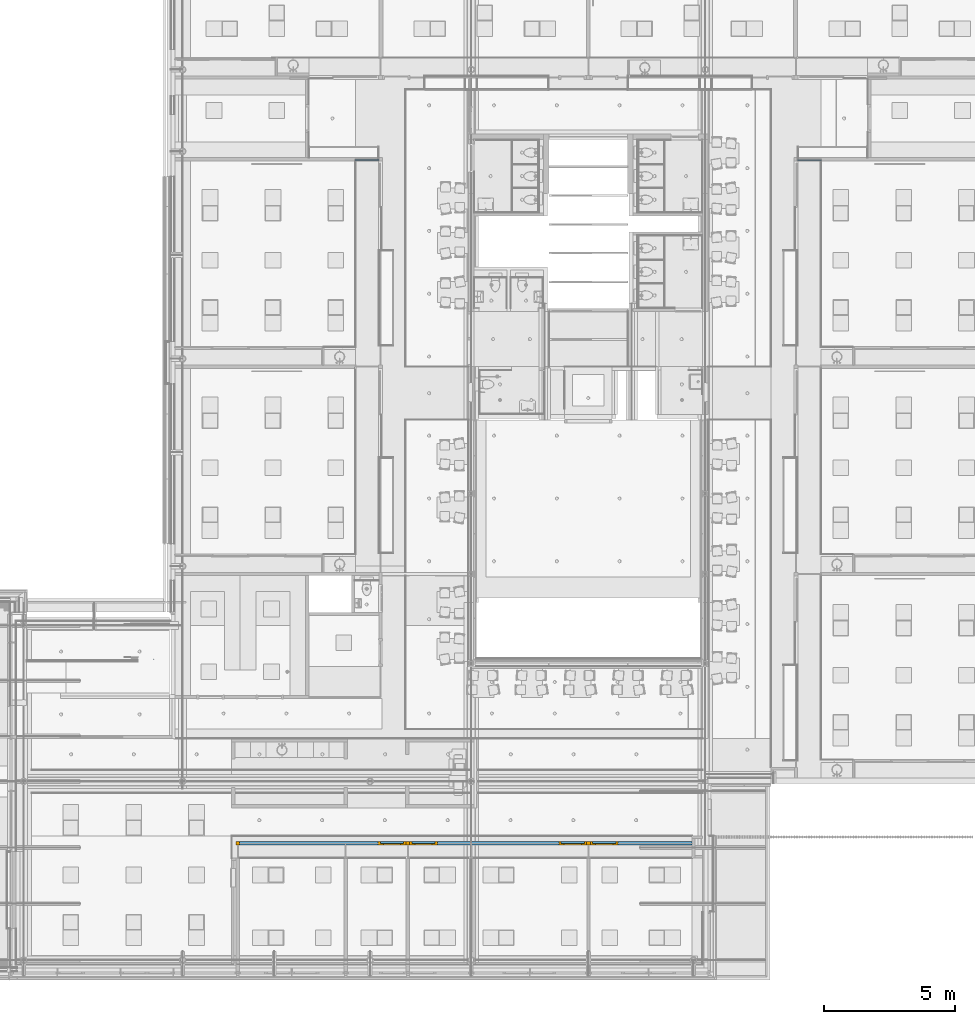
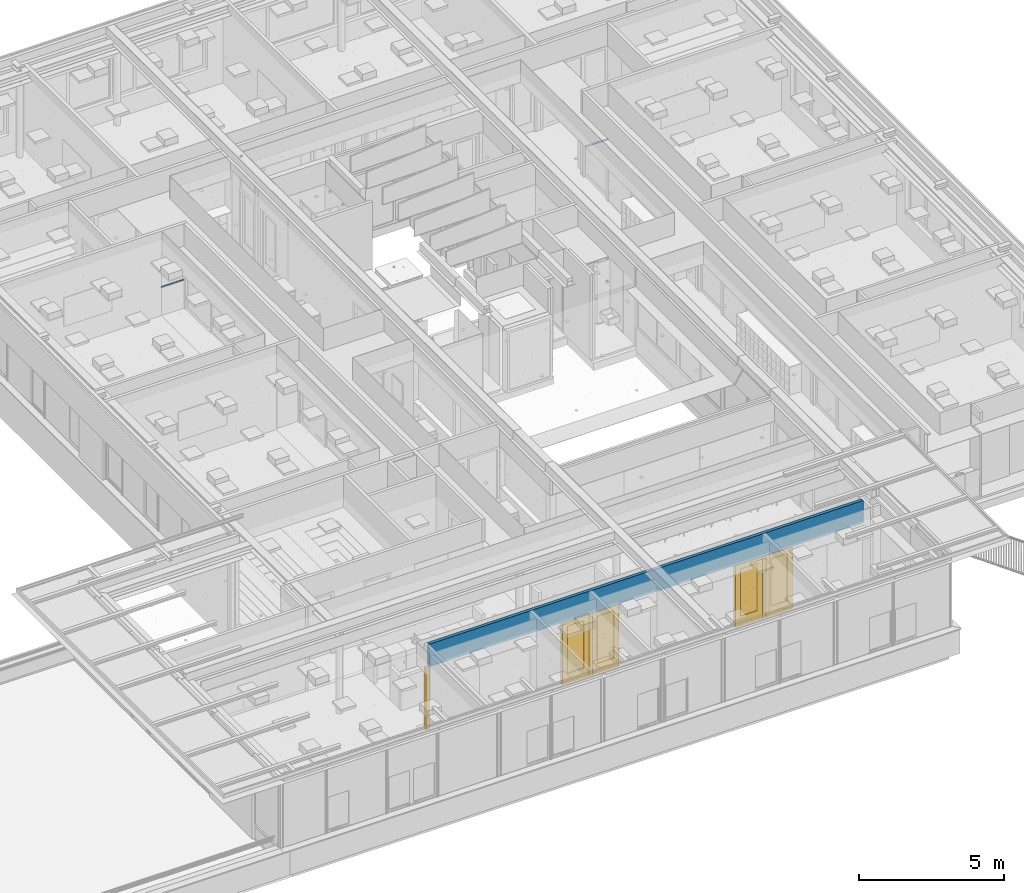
# One storey, part 3 of 260: 4 doors, 3 windows, 2 plates, 1 slab, 1 wall, 15 openings.
"""IFC2X3 building model written with IfcOpenShell, lengths in millimetres."""

from ifc_helpers import new_model, entity, si_unit, converted_unit, derived_unit, money_unit, direction, frame, origin_with_axes, place, context, subcontext, project, spatial, open_shell, faceted_brep, surface_model, source, transform, mapped, material, type_object, type_shapes, element, fill, save


model = new_model("IFC2X3")

# Units and contexts
model_context = context("Model", 3, precision=0.01, world=origin_with_axes(), true_north=direction((0.0, 1.0)))
plan_context = context("Plan", 3, precision=0.01, world=origin_with_axes(), true_north=direction((0.0, 1.0)))
body_context = subcontext(model_context, "Body", "Model", "MODEL_VIEW")
ifc_project = project(units=[si_unit("LENGTHUNIT", "METRE", prefix="MILLI"), si_unit("AREAUNIT", "SQUARE_METRE"), si_unit("VOLUMEUNIT", "CUBIC_METRE"), converted_unit("PLANEANGLEUNIT", "DEGREE", entity("IfcPlaneAngleMeasure", 0.0174532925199), si_unit("PLANEANGLEUNIT", "RADIAN"), dimensions=[0, 0, 0, 0, 0, 0, 0]), money_unit("EUR"), converted_unit("TIMEUNIT", "Year", entity("IfcTimeMeasure", 31556926.0), si_unit("TIMEUNIT", "SECOND"), dimensions=[0, 0, 1, 0, 0, 0, 0]), si_unit("MASSUNIT", "GRAM", prefix="KILO"), si_unit("THERMODYNAMICTEMPERATUREUNIT", "DEGREE_CELSIUS"), si_unit("LUMINOUSINTENSITYUNIT", "LUMEN"), si_unit("ENERGYUNIT", "JOULE", prefix="MEGA"), derived_unit("THERMALCONDUCTANCEUNIT", [(si_unit("POWERUNIT", "WATT"), 1), (si_unit("LENGTHUNIT", "METRE"), -1), (si_unit("THERMODYNAMICTEMPERATUREUNIT", "KELVIN"), -1)]), derived_unit("SPECIFICHEATCAPACITYUNIT", [(si_unit("ENERGYUNIT", "JOULE"), 1), (si_unit("MASSUNIT", "GRAM", prefix="KILO"), -1), (si_unit("THERMODYNAMICTEMPERATUREUNIT", "KELVIN"), -1)]), derived_unit("MASSDENSITYUNIT", [(si_unit("MASSUNIT", "GRAM", prefix="KILO"), 1), (si_unit("VOLUMEUNIT", "CUBIC_METRE"), -1)])], contexts=[model_context, plan_context])

# Site, building, storey
site_placement = place(None, origin_with_axes())
site = spatial("IfcSite", under=ifc_project, at=site_placement, Name="Site", CompositionType="ELEMENT")
building_placement = place(site_placement, origin_with_axes())
building = spatial("IfcBuilding", under=site, at=building_placement, Name="Naam gebouw", CompositionType="ELEMENT")
storey_placement = place(building_placement, frame((0.0, 0.0, 3960.0), z_axis=(0.0, 0.0, 1.0), x_axis=(1.0, 0.0, 0.0)))
storey = spatial("IfcBuildingStorey", under=building, at=storey_placement, Name="verdieping", CompositionType="ELEMENT", Elevation=3960.0)

# Plates
ifc_material_1 = material(Name="Hout - Lockers")
plate_type = type_object("IfcPlateType", Name="Hout - Lockers 25", PredefinedType="SHEET")
plate_1_placement = place(storey_placement, frame((48974.9999807, 35890.0, 1200.0), z_axis=(0.0, 0.0, 1.0), x_axis=(1.0, 0.0, 0.0)))
element("IfcPlate", 1, at=plate_1_placement, inside=storey, type_object=plate_type, material=ifc_material_1, Name="72_72 vaste inrichting", ObjectType="SHEET", context=body_context, shape_type="Brep", body=[
    faceted_brep([(0.0, 0.0, 0.0), (0.0, 0.0, -25.0), (-892.999980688, 0.0, -25.0), (-892.999980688, 0.0, 0.0), (0.0, -52.5000194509, 0.0), (0.0, -52.5000194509, -25.0), (-892.999980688, -52.5000194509, -25.0), (-892.999980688, -52.5000194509, 0.0)], [[[0, 1, 2, 3]], [[4, 5, 1, 0]], [[2, 1, 5, 6]], [[3, 2, 6, 7]], [[4, 0, 3, 7]], [[7, 6, 5, 4]]]),
])
plate_2_placement = place(storey_placement, frame((31175.0000193, 35893.5, 1200.0), z_axis=(0.0, 0.0, 1.0), x_axis=(1.0, 0.0, 0.0)))
element("IfcPlate", 2, at=plate_2_placement, inside=storey, type_object=plate_type, material=ifc_material_1, Name="72_72 vaste inrichting", ObjectType="SHEET", context=body_context, shape_type="Brep", body=[
    faceted_brep([(0.0, 0.0, 0.0), (0.0, 0.0, -25.0), (0.0, -56.0000194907, -25.0), (0.0, -56.0000194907, 0.0), (892.999980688, 0.0, 0.0), (892.999980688, 0.0, -25.0), (892.999980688, -56.0000194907, -25.0), (892.999980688, -56.0000194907, 0.0)], [[[0, 1, 2, 3]], [[4, 5, 1, 0]], [[2, 1, 5, 6]], [[3, 2, 6, 7]], [[4, 0, 3, 7]], [[7, 6, 5, 4]]]),
])

# Slab
ifc_material_2 = material(Name="Beton gewapend prefab")
slab_type = type_object("IfcSlabType", Name="Beton gewapend prefab 250", PredefinedType="NOTDEFINED")
slab_placement = place(storey_placement, frame((23464.0, 16799.0, -1980.0), z_axis=(0.0, 0.0, 1.0), x_axis=(1.0, 0.0, 0.0)))
element("IfcSlab", 3, at=slab_placement, inside=storey, type_object=slab_type, material=ifc_material_2, Name="23_23 VBI 260 + druklaag", PredefinedType="NOTDEFINED", context=body_context, shape_type="Brep", body=[
    faceted_brep([(0.0, 0.0, 0.0), (0.0, 0.0, -250.0), (2.0, 0.0, -250.0), (2.0, 0.0, 0.0), (0.0, 2.0, 0.0), (0.0, 2.0, -250.0), (2.0, 2.0, -250.0), (2.0, 2.0, 0.0)], [[[0, 1, 2, 3]], [[4, 5, 1, 0]], [[2, 1, 5, 6]], [[3, 2, 6, 7]], [[4, 0, 3, 7]], [[7, 6, 5, 4]]]),
])

# Wall, openings, windows, doors
ifc_material_3 = material(Name="ALG - LICHTE SCHEIDINGSWAND")
wall_type = type_object("IfcWallType", Name="ALG LSW 125 125", PredefinedType="NOTDEFINED")
wall_placement = place(storey_placement, frame((44045.0, 9825.0, 0.0), z_axis=(0.0, 0.0, 1.0), x_axis=(-1.0, 0.0, 0.0)))
wall = element("IfcWall", 4, at=wall_placement, inside=storey, type_object=wall_type, material=ifc_material_3, Name="22_GF 125 ECO DGS/2.75.2A", context=body_context, shape_type="Brep", body=[
    faceted_brep([(0.0, 125.0, 3560.0), (0.0, 125.0, 2612.0), (0.0, 0.0, 2612.0), (0.0, 0.0, 3560.0), (17300.0, 125.0, 3560.0), (17300.0, 125.0, 2612.0), (17300.0, 0.0, 2612.0), (17300.0, 0.0, 3560.0)], [[[0, 1, 2, 3]], [[4, 5, 1, 0]], [[5, 6, 2, 1]], [[3, 2, 6, 7]], [[3, 7, 4, 0]], [[7, 6, 5, 4]]]),
])
opening_1_placement = place(wall_placement, frame((12616.75, 0.0, 0.0), z_axis=(0.0, 0.0, 1.0), x_axis=(1.0, 0.0, 0.0)))
element("IfcOpeningElement", 5, at=opening_1_placement, cuts=wall, Name="31_10.14", context=body_context, shape_type="Brep", body=[
    faceted_brep([(620.75, 52.5, 2600.0), (620.75, 52.5, 0.0), (620.75, 250.0, 0.0), (620.75, 250.0, 2600.0), (-620.75, 52.5, 2600.0), (-620.75, 52.5, 0.0), (-620.75, 250.0, 0.0), (-620.75, 250.0, 2600.0)], [[[0, 1, 2, 3]], [[0, 4, 5, 1]], [[1, 5, 6, 2]], [[3, 2, 6, 7]], [[4, 0, 3, 7]], [[5, 4, 7, 6]]]),
    faceted_brep([(620.75, 52.5, 0.0), (620.75, 52.5, 2600.0), (620.75, -125.0, 2600.0), (620.75, -125.0, 0.0), (-620.75, 52.5, 0.0), (-620.75, 52.5, 2600.0), (-620.75, -125.0, 2600.0), (-620.75, -125.0, 0.0)], [[[0, 1, 2, 3]], [[0, 4, 5, 1]], [[1, 5, 6, 2]], [[3, 2, 6, 7]], [[4, 0, 3, 7]], [[5, 4, 7, 6]]]),
])
opening_2_placement = place(wall_placement, frame((14251.375, 0.0, 0.0), z_axis=(0.0, 0.0, 1.0), x_axis=(1.0, 0.0, 0.0)))
element("IfcOpeningElement", 6, at=opening_2_placement, cuts=wall, Name="31_10.23", context=body_context, shape_type="Brep", body=[
    faceted_brep([(1013.875, 52.5, 2600.0), (1013.875, 52.5, 0.0), (1013.875, 250.0, 0.0), (1013.875, 250.0, 2600.0), (-1013.875, 52.5, 2600.0), (-1013.875, 52.5, 0.0), (-1013.875, 250.0, 0.0), (-1013.875, 250.0, 2600.0)], [[[0, 1, 2, 3]], [[0, 4, 5, 1]], [[1, 5, 6, 2]], [[3, 2, 6, 7]], [[4, 0, 3, 7]], [[5, 4, 7, 6]]]),
    faceted_brep([(1013.875, 52.5, 0.0), (1013.875, 52.5, 2600.0), (1013.875, -125.0, 2600.0), (1013.875, -125.0, 0.0), (-1013.875, 52.5, 0.0), (-1013.875, 52.5, 2600.0), (-1013.875, -125.0, 2600.0), (-1013.875, -125.0, 0.0)], [[[0, 1, 2, 3]], [[0, 4, 5, 1]], [[1, 5, 6, 2]], [[3, 2, 6, 7]], [[4, 0, 3, 7]], [[5, 4, 7, 6]]]),
])
opening_3_placement = place(wall_placement, frame((10862.5, 0.0, 0.0), z_axis=(0.0, 0.0, 1.0), x_axis=(1.0, 0.0, 0.0)))
opening_3 = element("IfcOpeningElement", 7, at=opening_3_placement, cuts=wall, Name="32_-", context=body_context, shape_type="Brep", body=[
    faceted_brep([(-69.5, 132.0, 2600.0), (-69.5, 132.0, 0.0), (-69.5, -132.0, 0.0), (-69.5, -132.0, 2600.0), (69.5, 132.0, 2600.0), (69.5, 132.0, 0.0), (69.5, -132.0, 0.0), (69.5, -132.0, 2600.0)], [[[0, 1, 2, 3]], [[0, 4, 5, 1]], [[1, 5, 6, 2]], [[3, 2, 6, 7]], [[4, 0, 3, 7]], [[5, 4, 7, 6]]]),
])
opening_4_placement = place(wall_placement, frame((9084.5, 0.0, 0.0), z_axis=(0.0, 0.0, 1.0), x_axis=(1.0, 0.0, 0.0)))
element("IfcOpeningElement", 8, at=opening_4_placement, cuts=wall, Name="31_10.15", context=body_context, shape_type="Brep", body=[
    faceted_brep([(-644.5, 250.0, 2600.0), (-644.5, 250.0, 0.0), (-644.5, 52.5, 0.0), (-644.5, 52.5, 2600.0), (644.5, 250.0, 2600.0), (644.5, 250.0, 0.0), (644.5, 52.5, 0.0), (644.5, 52.5, 2600.0)], [[[0, 1, 2, 3]], [[0, 4, 5, 1]], [[1, 5, 6, 2]], [[3, 2, 6, 7]], [[4, 0, 3, 7]], [[5, 4, 7, 6]]]),
    faceted_brep([(-644.5, -125.0, 0.0), (-644.5, -125.0, 2600.0), (-644.5, 52.5, 2600.0), (-644.5, 52.5, 0.0), (644.5, -125.0, 0.0), (644.5, -125.0, 2600.0), (644.5, 52.5, 2600.0), (644.5, 52.5, 0.0)], [[[0, 1, 2, 3]], [[0, 4, 5, 1]], [[1, 5, 6, 2]], [[3, 2, 6, 7]], [[4, 0, 3, 7]], [[5, 4, 7, 6]]]),
])
opening_5_placement = place(wall_placement, frame((5932.0, 0.0, 0.0), z_axis=(0.0, 0.0, 1.0), x_axis=(1.0, 0.0, 0.0)))
element("IfcOpeningElement", 9, at=opening_5_placement, cuts=wall, Name="31_10.22", context=body_context, shape_type="Brep", body=[
    faceted_brep([(-836.0, 250.0, 2600.0), (-836.0, 250.0, 0.0), (-836.0, 52.5, 0.0), (-836.0, 52.5, 2600.0), (836.0, 250.0, 2600.0), (836.0, 250.0, 0.0), (836.0, 52.5, 0.0), (836.0, 52.5, 2600.0)], [[[0, 1, 2, 3]], [[0, 4, 5, 1]], [[1, 5, 6, 2]], [[3, 2, 6, 7]], [[4, 0, 3, 7]], [[5, 4, 7, 6]]]),
    faceted_brep([(-836.0, -125.0, 0.0), (-836.0, -125.0, 2600.0), (-836.0, 52.5, 2600.0), (-836.0, 52.5, 0.0), (836.0, -125.0, 0.0), (836.0, -125.0, 2600.0), (836.0, 52.5, 2600.0), (836.0, 52.5, 0.0)], [[[0, 1, 2, 3]], [[0, 4, 5, 1]], [[1, 5, 6, 2]], [[3, 2, 6, 7]], [[4, 0, 3, 7]], [[5, 4, 7, 6]]]),
])
opening_6_placement = place(wall_placement, frame((3962.5, 0.0, 0.0), z_axis=(0.0, 0.0, 1.0), x_axis=(1.0, 0.0, 0.0)))
opening_6 = element("IfcOpeningElement", 10, at=opening_6_placement, cuts=wall, Name="32_-", context=body_context, shape_type="Brep", body=[
    faceted_brep([(69.5, -132.0, 2600.0), (69.5, -132.0, 0.0), (69.5, 132.0, 0.0), (69.5, 132.0, 2600.0), (-69.5, -132.0, 2600.0), (-69.5, -132.0, 0.0), (-69.5, 132.0, 0.0), (-69.5, 132.0, 2600.0)], [[[0, 1, 2, 3]], [[0, 4, 5, 1]], [[1, 5, 6, 2]], [[3, 2, 6, 7]], [[4, 0, 3, 7]], [[5, 4, 7, 6]]]),
])
opening_7_placement = place(wall_placement, frame((2121.75, 0.0, 0.0), z_axis=(0.0, 0.0, 1.0), x_axis=(1.0, 0.0, 0.0)))
element("IfcOpeningElement", 11, at=opening_7_placement, cuts=wall, Name="31_10.21", context=body_context, shape_type="Brep", body=[
    faceted_brep([(-707.25, 250.0, 2600.0), (-707.25, 250.0, 0.0), (-707.25, 52.5, 0.0), (-707.25, 52.5, 2600.0), (707.25, 250.0, 2600.0), (707.25, 250.0, 0.0), (707.25, 52.5, 0.0), (707.25, 52.5, 2600.0)], [[[0, 1, 2, 3]], [[0, 4, 5, 1]], [[1, 5, 6, 2]], [[3, 2, 6, 7]], [[4, 0, 3, 7]], [[5, 4, 7, 6]]]),
    faceted_brep([(-707.25, -125.0, 0.0), (-707.25, -125.0, 2600.0), (-707.25, 52.5, 2600.0), (-707.25, 52.5, 0.0), (707.25, -125.0, 0.0), (707.25, -125.0, 2600.0), (707.25, 52.5, 2600.0), (707.25, 52.5, 0.0)], [[[0, 1, 2, 3]], [[0, 4, 5, 1]], [[1, 5, 6, 2]], [[3, 2, 6, 7]], [[4, 0, 3, 7]], [[5, 4, 7, 6]]]),
])
opening_8_placement = place(wall_placement, frame((17362.5, 0.0, 0.0), z_axis=(0.0, 0.0, 1.0), x_axis=(1.0, 0.0, 0.0)))
opening_8 = element("IfcOpeningElement", 12, at=opening_8_placement, cuts=wall, Name="32_-", context=body_context, shape_type="Brep", body=[
    faceted_brep([(-69.5, -132.0, 0.0), (-69.5, -132.0, 2600.0), (-69.5, 132.0, 2600.0), (-69.5, 132.0, 0.0), (69.5, -132.0, 0.0), (69.5, -132.0, 2600.0), (69.5, -7.0, 2600.0), (69.5, -7.0, 0.0)], [[[0, 1, 2, 3]], [[1, 0, 4, 5]], [[2, 1, 5, 6]], [[3, 2, 6, 7]], [[4, 0, 3, 7]], [[5, 4, 7, 6]]]),
])
opening_9_placement = place(wall_placement, frame((707.25, 0.0, 0.0), z_axis=(0.0, 0.0, 1.0), x_axis=(1.0, 0.0, 0.0)))
element("IfcOpeningElement", 13, at=opening_9_placement, cuts=wall, Name="31_10.21", context=body_context, shape_type="Brep", body=[
    faceted_brep([(-707.25, 250.0, 2600.0), (-707.25, 250.0, 0.0), (-707.25, 52.5, 0.0), (-707.25, 52.5, 2600.0), (707.25, 250.0, 2600.0), (707.25, 250.0, 0.0), (707.25, 52.5, 0.0), (707.25, 52.5, 2600.0)], [[[0, 1, 2, 3]], [[0, 4, 5, 1]], [[1, 5, 6, 2]], [[3, 2, 6, 7]], [[4, 0, 3, 7]], [[5, 4, 7, 6]]]),
    faceted_brep([(-707.25, -125.0, 0.0), (-707.25, -125.0, 2600.0), (-707.25, 52.5, 2600.0), (-707.25, 52.5, 0.0), (707.25, -125.0, 0.0), (707.25, -125.0, 2600.0), (707.25, 52.5, 2600.0), (707.25, 52.5, 0.0)], [[[0, 1, 2, 3]], [[0, 4, 5, 1]], [[1, 5, 6, 2]], [[3, 2, 6, 7]], [[4, 0, 3, 7]], [[5, 4, 7, 6]]]),
])
opening_10_placement = place(wall_placement, frame((7604.0, 0.0, 0.0), z_axis=(0.0, 0.0, 1.0), x_axis=(1.0, 0.0, 0.0)))
element("IfcOpeningElement", 14, at=opening_10_placement, cuts=wall, Name="31_10.22", context=body_context, shape_type="Brep", body=[
    faceted_brep([(-836.0, 250.0, 2600.0), (-836.0, 250.0, 0.0), (-836.0, 52.5, 0.0), (-836.0, 52.5, 2600.0), (836.0, 250.0, 2600.0), (836.0, 250.0, 0.0), (836.0, 52.5, 0.0), (836.0, 52.5, 2600.0)], [[[0, 1, 2, 3]], [[0, 4, 5, 1]], [[1, 5, 6, 2]], [[3, 2, 6, 7]], [[4, 0, 3, 7]], [[5, 4, 7, 6]]]),
    faceted_brep([(-836.0, -125.0, 0.0), (-836.0, -125.0, 2600.0), (-836.0, 52.5, 2600.0), (-836.0, 52.5, 0.0), (836.0, -125.0, 0.0), (836.0, -125.0, 2600.0), (836.0, 52.5, 2600.0), (836.0, 52.5, 0.0)], [[[0, 1, 2, 3]], [[0, 4, 5, 1]], [[1, 5, 6, 2]], [[3, 2, 6, 7]], [[4, 0, 3, 7]], [[5, 4, 7, 6]]]),
])
opening_11_placement = place(wall_placement, frame((16279.125, 0.0, 0.0), z_axis=(0.0, 0.0, 1.0), x_axis=(1.0, 0.0, 0.0)))
element("IfcOpeningElement", 15, at=opening_11_placement, cuts=wall, Name="31_10.23", context=body_context, shape_type="Brep", body=[
    faceted_brep([(1013.875, 52.5, 2600.0), (1013.875, 52.5, 0.0), (1013.875, 250.0, 0.0), (1013.875, 250.0, 2600.0), (-1013.875, 52.5, 2600.0), (-1013.875, 52.5, 0.0), (-1013.875, 250.0, 0.0), (-1013.875, 250.0, 2600.0)], [[[0, 1, 2, 3]], [[0, 4, 5, 1]], [[1, 5, 6, 2]], [[3, 2, 6, 7]], [[4, 0, 3, 7]], [[5, 4, 7, 6]]]),
    faceted_brep([(1013.875, 52.5, 0.0), (1013.875, 52.5, 2600.0), (1013.875, -125.0, 2600.0), (1013.875, -125.0, 0.0), (-1013.875, 52.5, 0.0), (-1013.875, 52.5, 2600.0), (-1013.875, -125.0, 2600.0), (-1013.875, -125.0, 0.0)], [[[0, 1, 2, 3]], [[0, 4, 5, 1]], [[1, 5, 6, 2]], [[3, 2, 6, 7]], [[4, 0, 3, 7]], [[5, 4, 7, 6]]]),
])
opening_12_placement = place(wall_placement, frame((11464.0, 0.0, 0.0), z_axis=(0.0, 0.0, 1.0), x_axis=(1.0, 0.0, 0.0)))
opening_12 = element("IfcOpeningElement", 16, at=opening_12_placement, cuts=wall, Name="32_01.01", context=body_context, shape_type="Brep", body=[
    faceted_brep([(-532.0, 257.0, 2600.0), (-532.0, 257.0, 0.0), (-532.0, -125.0, 0.0), (-532.0, -125.0, 2600.0), (532.0, 257.0, 2600.0), (532.0, 257.0, 0.0), (532.0, -125.0, 0.0), (532.0, -125.0, 2600.0)], [[[0, 1, 2, 3]], [[0, 4, 5, 1]], [[1, 5, 6, 2]], [[3, 2, 6, 7]], [[4, 0, 3, 7]], [[5, 4, 7, 6]]]),
])
opening_13_placement = place(wall_placement, frame((10261.0, 0.0, 0.0), z_axis=(0.0, 0.0, 1.0), x_axis=(1.0, 0.0, 0.0)))
opening_13 = element("IfcOpeningElement", 17, at=opening_13_placement, cuts=wall, Name="32_02.01", context=body_context, shape_type="Brep", body=[
    faceted_brep([(532.0, -125.0, 2600.0), (532.0, -125.0, 0.0), (532.0, 257.0, 0.0), (532.0, 257.0, 2600.0), (-532.0, -125.0, 2600.0), (-532.0, -125.0, 0.0), (-532.0, 257.0, 0.0), (-532.0, 257.0, 2600.0)], [[[0, 1, 2, 3]], [[0, 4, 5, 1]], [[1, 5, 6, 2]], [[3, 2, 6, 7]], [[4, 0, 3, 7]], [[5, 4, 7, 6]]]),
])
opening_14_placement = place(wall_placement, frame((3361.0, 0.0, 0.0), z_axis=(0.0, 0.0, 1.0), x_axis=(1.0, 0.0, 0.0)))
opening_14 = element("IfcOpeningElement", 18, at=opening_14_placement, cuts=wall, Name="32_02.01", context=body_context, shape_type="Brep", body=[
    faceted_brep([(532.0, -125.0, 2600.0), (532.0, -125.0, 0.0), (532.0, 257.0, 0.0), (532.0, 257.0, 2600.0), (-532.0, -125.0, 2600.0), (-532.0, -125.0, 0.0), (-532.0, 257.0, 0.0), (-532.0, 257.0, 2600.0)], [[[0, 1, 2, 3]], [[0, 4, 5, 1]], [[1, 5, 6, 2]], [[3, 2, 6, 7]], [[4, 0, 3, 7]], [[5, 4, 7, 6]]]),
])
opening_15_placement = place(wall_placement, frame((4564.0, 0.0, 0.0), z_axis=(0.0, 0.0, 1.0), x_axis=(1.0, 0.0, 0.0)))
opening_15 = element("IfcOpeningElement", 19, at=opening_15_placement, cuts=wall, Name="32_01.01", context=body_context, shape_type="Brep", body=[
    faceted_brep([(-532.0, 257.0, 2600.0), (-532.0, 257.0, 0.0), (-532.0, -125.0, 0.0), (-532.0, -125.0, 2600.0), (532.0, 257.0, 2600.0), (532.0, 257.0, 0.0), (532.0, -125.0, 0.0), (532.0, -125.0, 2600.0)], [[[0, 1, 2, 3]], [[0, 4, 5, 1]], [[1, 5, 6, 2]], [[3, 2, 6, 7]], [[4, 0, 3, 7]], [[5, 4, 7, 6]]]),
])
ifc_material_4 = material(Name="32 Hout binnenkozijn oregon pine")
window_style = type_object("IfcWindowStyle", Name="32 stijl 139", ConstructionType="NOTDEFINED", OperationType="NOTDEFINED", ParameterTakesPrecedence=False, Sizeable=False)
shared_shape_1 = source(origin_with_axes(), body_context, "Body", "Brep", [
    faceted_brep([(69.5, 139.0, 2600.0), (69.5, 139.0, 0.0), (-68.5, 139.0, 0.0), (-68.5, 139.0, 2600.0), (69.5, 1.0, 2600.0), (69.5, 1.0, 0.0), (68.5, 0.0, 0.0), (-68.5, 0.0, 0.0), (-69.5, 1.0, 0.0), (-69.5, 138.0, 0.0), (-69.5, 138.0, 2600.0), (-69.5, 1.0, 2600.0), (-68.5, 0.0, 2600.0), (68.5, 0.0, 2600.0)], [[[0, 1, 2, 3]], [[4, 5, 1, 0]], [[1, 5, 6, 7, 8, 9, 2]], [[3, 2, 9, 10]], [[0, 3, 10, 11, 12, 13, 4]], [[13, 6, 5, 4]], [[12, 7, 6, 13]], [[11, 8, 7, 12]], [[10, 9, 8, 11]]]),
])
window_1_placement = place(opening_3_placement, frame((-69.5, 0.0, 0.0), z_axis=(0.0, 0.0, 1.0), x_axis=(1.0, 0.0, 0.0)))
window_1 = element("IfcWindow", 20, at=window_1_placement, inside=storey, type_object=window_style, material=ifc_material_4, Name="32_-", ObjectType="WINDOW", OverallHeight=2600.0, OverallWidth=139.0, context=body_context, shape_type="MappedRepresentation", body=[
    mapped(shared_shape_1, transform((69.5, -7.0, 0.0))),
])
fill(opening_3, window_1)
window_2_placement = place(opening_8_placement, frame((-69.5, 0.0, 0.0), z_axis=(0.0, 0.0, 1.0), x_axis=(1.0, 0.0, 0.0)))
window_2 = element("IfcWindow", 21, at=window_2_placement, inside=storey, type_object=window_style, material=ifc_material_4, Name="32_-", ObjectType="WINDOW", OverallHeight=2600.0, OverallWidth=139.0, context=body_context, shape_type="MappedRepresentation", body=[
    mapped(shared_shape_1, transform((69.5, -7.0, 0.0))),
])
fill(opening_8, window_2)
door_style_1 = type_object("IfcDoorStyle", Name="D1 25", ConstructionType="NOTDEFINED", OperationType="SINGLE_SWING_RIGHT", ParameterTakesPrecedence=False, Sizeable=False)
shared_shape_2 = source(origin_with_axes(), body_context, "Body", "SurfaceModel", [
    faceted_brep([(-442.0, -60.0, 0.0), (-442.0, -60.0, 2510.0), (-442.0, -139.0, 2510.0), (-442.0, -139.0, 0.0), (-467.0, -60.0, 2510.0), (-467.0, -60.0, 0.0), (-467.0, 0.0, 2510.0), (-532.0, 0.0, 2510.0), (-532.0, -139.0, 2510.0), (-532.0, -139.0, 0.0), (-532.0, 0.0, 0.0), (-467.0, 0.0, 0.0)], [[[0, 1, 2, 3]], [[4, 1, 0, 5]], [[4, 6, 7, 8, 2, 1]], [[3, 2, 8, 9]], [[5, 0, 3, 9, 10, 11]], [[6, 4, 5, 11]], [[6, 11, 10, 7]], [[10, 9, 8, 7]]]),
    faceted_brep([(467.0, -60.0, 2510.0), (442.0, -60.0, 2510.0), (442.0, -139.0, 2510.0), (532.0, -139.0, 2510.0), (532.0, 0.0, 2510.0), (467.0, 0.0, 2510.0), (467.0, -60.0, 0.0), (442.0, -60.0, 0.0), (442.0, -139.0, 0.0), (532.0, -139.0, 0.0), (532.0, 0.0, 0.0), (467.0, 0.0, 0.0)], [[[0, 1, 2, 3, 4, 5]], [[1, 0, 6, 7]], [[1, 7, 8, 2]], [[3, 2, 8, 9]], [[4, 3, 9, 10]], [[11, 5, 4, 10]], [[0, 5, 11, 6]], [[6, 11, 10, 9, 8, 7]]]),
    faceted_brep([(-467.0, 0.0, 2535.0), (-467.0, 0.0, 2510.0), (-532.0, 0.0, 2510.0), (-532.0, 0.0, 2600.0), (532.0, 0.0, 2600.0), (532.0, 0.0, 2510.0), (467.0, 0.0, 2510.0), (467.0, 0.0, 2535.0), (-467.0, -60.0, 2535.0), (-467.0, -60.0, 2510.0), (-442.0, -60.0, 2510.0), (-442.0, -139.0, 2510.0), (-532.0, -139.0, 2510.0), (-532.0, -139.0, 2600.0), (532.0, -139.0, 2600.0), (532.0, -139.0, 2510.0), (467.0, -60.0, 2510.0), (442.0, -139.0, 2510.0), (442.0, -60.0, 2510.0), (467.0, -60.0, 2535.0)], [[[0, 1, 2, 3, 4, 5, 6, 7]], [[1, 0, 8, 9]], [[9, 10, 11, 12, 2, 1]], [[2, 12, 13, 3]], [[3, 13, 14, 4]], [[4, 14, 15, 5]], [[16, 6, 5, 15, 17, 18]], [[7, 6, 16, 19]], [[0, 7, 19, 8]], [[16, 18, 10, 9, 8, 19]], [[10, 18, 17, 11]], [[17, 15, 14, 13, 12, 11]]]),
    faceted_brep([(467.0, -6.0, 400.0), (467.0, -60.0, 400.0), (327.0, -60.0, 400.0), (327.0, -6.0, 400.0), (467.0, -6.0, 2395.0), (467.0, -60.0, 2395.0), (327.0, -60.0, 2395.0), (327.0, -6.0, 2395.0)], [[[0, 1, 2, 3]], [[4, 5, 1, 0]], [[1, 5, 6, 2]], [[3, 2, 6, 7]], [[0, 3, 7, 4]], [[7, 6, 5, 4]]]),
    faceted_brep([(-467.0, -6.0, 400.0), (-467.0, -60.0, 400.0), (-467.0, -60.0, 2395.0), (-467.0, -6.0, 2395.0), (-327.0, -6.0, 400.0), (-327.0, -60.0, 400.0), (-327.0, -60.0, 2395.0), (-327.0, -6.0, 2395.0)], [[[0, 1, 2, 3]], [[4, 5, 1, 0]], [[1, 5, 6, 2]], [[3, 2, 6, 7]], [[0, 3, 7, 4]], [[7, 6, 5, 4]]]),
    faceted_brep([(467.0, -6.0, 0.0), (467.0, -60.0, 0.0), (-467.0, -60.0, 0.0), (-467.0, -6.0, 0.0), (467.0, -6.0, 400.0), (467.0, -60.0, 400.0), (327.0, -60.0, 400.0), (-327.0, -60.0, 400.0), (-467.0, -60.0, 400.0), (-467.0, -6.0, 400.0), (-327.0, -6.0, 400.0), (327.0, -6.0, 400.0)], [[[0, 1, 2, 3]], [[4, 5, 1, 0]], [[1, 5, 6, 7, 8, 2]], [[3, 2, 8, 9]], [[0, 3, 9, 10, 11, 4]], [[11, 6, 5, 4]], [[10, 7, 6, 11]], [[9, 8, 7, 10]]]),
    faceted_brep([(467.0, -6.0, 2535.0), (467.0, -60.0, 2535.0), (467.0, -60.0, 2395.0), (467.0, -6.0, 2395.0), (-467.0, -6.0, 2535.0), (-467.0, -60.0, 2535.0), (-467.0, -60.0, 2395.0), (-327.0, -60.0, 2395.0), (327.0, -60.0, 2395.0), (327.0, -6.0, 2395.0), (-327.0, -6.0, 2395.0), (-467.0, -6.0, 2395.0)], [[[0, 1, 2, 3]], [[4, 5, 1, 0]], [[1, 5, 6, 7, 8, 2]], [[3, 2, 8, 9]], [[0, 3, 9, 10, 11, 4]], [[11, 6, 5, 4]], [[10, 7, 6, 11]], [[9, 8, 7, 10]]]),
    surface_model("IfcShellBasedSurfaceModel", [(327.0, -27.0, 400.0), (-327.0, -27.0, 400.0), (-327.0, -27.0, 2395.0), (327.0, -27.0, 2395.0)], [open_shell([[[0, 1, 2, 3]]])]),
    surface_model("IfcShellBasedSurfaceModel", [(327.0, -39.0, 400.0), (327.0, -39.0, 2395.0), (-327.0, -39.0, 2395.0), (-327.0, -39.0, 400.0)], [open_shell([[[0, 1, 2, 3]]])]),
])
type_shapes(door_style_1, [shared_shape_2])
door_1_placement = place(opening_13_placement, frame((-532.0, 0.0, 0.0), z_axis=(0.0, 0.0, 1.0), x_axis=(1.0, 0.0, 0.0)))
door_1 = element("IfcDoor", 22, at=door_1_placement, inside=storey, type_object=door_style_1, Name="32_02.01", ObjectType="DOOR", OverallHeight=2600.0, OverallWidth=1064.0, context=body_context, shape_type="MappedRepresentation", body=[
    mapped(shared_shape_2, transform((532.0, 132.0, 0.0))),
])
fill(opening_13, door_1)
door_2_placement = place(opening_14_placement, frame((-532.0, 0.0, 0.0), z_axis=(0.0, 0.0, 1.0), x_axis=(1.0, 0.0, 0.0)))
door_2 = element("IfcDoor", 23, at=door_2_placement, inside=storey, type_object=door_style_1, Name="32_02.01", ObjectType="DOOR", OverallHeight=2600.0, OverallWidth=1064.0, context=body_context, shape_type="MappedRepresentation", body=[
    mapped(shared_shape_2, transform((532.0, 132.0, 0.0))),
])
fill(opening_14, door_2)
door_style_2 = type_object("IfcDoorStyle", Name="D1 25", ConstructionType="NOTDEFINED", OperationType="SINGLE_SWING_LEFT", ParameterTakesPrecedence=False, Sizeable=False)
shared_shape_3 = source(origin_with_axes(), body_context, "Body", "SurfaceModel", [
    faceted_brep([(442.0, -60.0, 0.0), (442.0, -139.0, 0.0), (442.0, -139.0, 2510.0), (442.0, -60.0, 2510.0), (467.0, -60.0, 0.0), (467.0, 0.0, 0.0), (532.0, 0.0, 0.0), (532.0, -139.0, 0.0), (532.0, -139.0, 2510.0), (467.0, -60.0, 2510.0), (532.0, 0.0, 2510.0), (467.0, 0.0, 2510.0)], [[[0, 1, 2, 3]], [[4, 5, 6, 7, 1, 0]], [[1, 7, 8, 2]], [[9, 3, 2, 8, 10, 11]], [[9, 4, 0, 3]], [[11, 5, 4, 9]], [[11, 10, 6, 5]], [[6, 10, 8, 7]]]),
    faceted_brep([(-467.0, -60.0, 2510.0), (-467.0, 0.0, 2510.0), (-532.0, 0.0, 2510.0), (-532.0, -139.0, 2510.0), (-442.0, -139.0, 2510.0), (-442.0, -60.0, 2510.0), (-467.0, -60.0, 0.0), (-467.0, 0.0, 0.0), (-532.0, 0.0, 0.0), (-532.0, -139.0, 0.0), (-442.0, -139.0, 0.0), (-442.0, -60.0, 0.0)], [[[0, 1, 2, 3, 4, 5]], [[0, 6, 7, 1]], [[7, 8, 2, 1]], [[2, 8, 9, 3]], [[3, 9, 10, 4]], [[5, 4, 10, 11]], [[5, 11, 6, 0]], [[6, 11, 10, 9, 8, 7]]]),
    faceted_brep([(467.0, 0.0, 2535.0), (-467.0, 0.0, 2535.0), (-467.0, 0.0, 2510.0), (-532.0, 0.0, 2510.0), (-532.0, 0.0, 2600.0), (532.0, 0.0, 2600.0), (532.0, 0.0, 2510.0), (467.0, 0.0, 2510.0), (467.0, -60.0, 2535.0), (-467.0, -60.0, 2535.0), (-467.0, -60.0, 2510.0), (-442.0, -60.0, 2510.0), (-442.0, -139.0, 2510.0), (-532.0, -139.0, 2510.0), (-532.0, -139.0, 2600.0), (532.0, -139.0, 2600.0), (532.0, -139.0, 2510.0), (467.0, -60.0, 2510.0), (442.0, -139.0, 2510.0), (442.0, -60.0, 2510.0)], [[[0, 1, 2, 3, 4, 5, 6, 7]], [[0, 8, 9, 1]], [[1, 9, 10, 2]], [[10, 11, 12, 13, 3, 2]], [[4, 3, 13, 14]], [[5, 4, 14, 15]], [[6, 5, 15, 16]], [[17, 7, 6, 16, 18, 19]], [[7, 17, 8, 0]], [[10, 9, 8, 17, 19, 11]], [[19, 18, 12, 11]], [[12, 18, 16, 15, 14, 13]]]),
    faceted_brep([(-467.0, -6.0, 400.0), (-327.0, -6.0, 400.0), (-327.0, -60.0, 400.0), (-467.0, -60.0, 400.0), (-467.0, -6.0, 2395.0), (-327.0, -6.0, 2395.0), (-327.0, -60.0, 2395.0), (-467.0, -60.0, 2395.0)], [[[0, 1, 2, 3]], [[0, 4, 5, 1]], [[1, 5, 6, 2]], [[3, 2, 6, 7]], [[4, 0, 3, 7]], [[5, 4, 7, 6]]]),
    faceted_brep([(467.0, -6.0, 400.0), (467.0, -6.0, 2395.0), (467.0, -60.0, 2395.0), (467.0, -60.0, 400.0), (327.0, -6.0, 400.0), (327.0, -6.0, 2395.0), (327.0, -60.0, 2395.0), (327.0, -60.0, 400.0)], [[[0, 1, 2, 3]], [[0, 4, 5, 1]], [[1, 5, 6, 2]], [[3, 2, 6, 7]], [[4, 0, 3, 7]], [[5, 4, 7, 6]]]),
    faceted_brep([(-467.0, -6.0, 0.0), (467.0, -6.0, 0.0), (467.0, -60.0, 0.0), (-467.0, -60.0, 0.0), (-467.0, -6.0, 400.0), (-327.0, -6.0, 400.0), (327.0, -6.0, 400.0), (467.0, -6.0, 400.0), (467.0, -60.0, 400.0), (327.0, -60.0, 400.0), (-327.0, -60.0, 400.0), (-467.0, -60.0, 400.0)], [[[0, 1, 2, 3]], [[0, 4, 5, 6, 7, 1]], [[1, 7, 8, 2]], [[3, 2, 8, 9, 10, 11]], [[4, 0, 3, 11]], [[5, 4, 11, 10]], [[6, 5, 10, 9]], [[7, 6, 9, 8]]]),
    faceted_brep([(-467.0, -6.0, 2535.0), (-467.0, -6.0, 2395.0), (-467.0, -60.0, 2395.0), (-467.0, -60.0, 2535.0), (467.0, -6.0, 2535.0), (467.0, -6.0, 2395.0), (327.0, -6.0, 2395.0), (-327.0, -6.0, 2395.0), (-327.0, -60.0, 2395.0), (327.0, -60.0, 2395.0), (467.0, -60.0, 2395.0), (467.0, -60.0, 2535.0)], [[[0, 1, 2, 3]], [[0, 4, 5, 6, 7, 1]], [[1, 7, 8, 2]], [[3, 2, 8, 9, 10, 11]], [[4, 0, 3, 11]], [[5, 4, 11, 10]], [[6, 5, 10, 9]], [[7, 6, 9, 8]]]),
    surface_model("IfcShellBasedSurfaceModel", [(-327.0, -27.0, 400.0), (-327.0, -27.0, 2395.0), (327.0, -27.0, 2395.0), (327.0, -27.0, 400.0)], [open_shell([[[0, 1, 2, 3]]])]),
    surface_model("IfcShellBasedSurfaceModel", [(-327.0, -39.0, 400.0), (327.0, -39.0, 400.0), (327.0, -39.0, 2395.0), (-327.0, -39.0, 2395.0)], [open_shell([[[0, 1, 2, 3]]])]),
])
type_shapes(door_style_2, [shared_shape_3])
door_3_placement = place(opening_12_placement, frame((-532.0, 0.0, 0.0), z_axis=(0.0, 0.0, 1.0), x_axis=(1.0, 0.0, 0.0)))
door_3 = element("IfcDoor", 24, at=door_3_placement, inside=storey, type_object=door_style_2, Name="32_01.01", ObjectType="DOOR", OverallHeight=2600.0, OverallWidth=1064.0, context=body_context, shape_type="MappedRepresentation", body=[
    mapped(shared_shape_3, transform((532.0, 132.0, 0.0))),
])
fill(opening_12, door_3)
door_4_placement = place(opening_15_placement, frame((-532.0, 0.0, 0.0), z_axis=(0.0, 0.0, 1.0), x_axis=(1.0, 0.0, 0.0)))
door_4 = element("IfcDoor", 25, at=door_4_placement, inside=storey, type_object=door_style_2, Name="32_01.01", ObjectType="DOOR", OverallHeight=2600.0, OverallWidth=1064.0, context=body_context, shape_type="MappedRepresentation", body=[
    mapped(shared_shape_3, transform((532.0, 132.0, 0.0))),
])
fill(opening_15, door_4)
shared_shape_4 = source(origin_with_axes(), body_context, "Body", "Brep", [
    faceted_brep([(-69.5, 139.0, 2600.0), (68.5, 139.0, 2600.0), (68.5, 139.0, 0.0), (-69.5, 139.0, 0.0), (-69.5, 1.0, 2600.0), (-68.5, 0.0, 2600.0), (68.5, 0.0, 2600.0), (69.5, 1.0, 2600.0), (69.5, 138.0, 2600.0), (69.5, 138.0, 0.0), (69.5, 1.0, 0.0), (68.5, 0.0, 0.0), (-68.5, 0.0, 0.0), (-69.5, 1.0, 0.0)], [[[0, 1, 2, 3]], [[0, 4, 5, 6, 7, 8, 1]], [[1, 8, 9, 2]], [[3, 2, 9, 10, 11, 12, 13]], [[4, 0, 3, 13]], [[5, 4, 13, 12]], [[6, 5, 12, 11]], [[7, 6, 11, 10]], [[8, 7, 10, 9]]]),
])
type_shapes(window_style, [shared_shape_1, shared_shape_4])
window_3_placement = place(opening_6_placement, frame((-69.5, 0.0, 0.0), z_axis=(0.0, 0.0, 1.0), x_axis=(1.0, 0.0, 0.0)))
window_3 = element("IfcWindow", 26, at=window_3_placement, inside=storey, type_object=window_style, material=ifc_material_4, Name="32_-", ObjectType="WINDOW", OverallHeight=2600.0, OverallWidth=139.0, context=body_context, shape_type="MappedRepresentation", body=[
    mapped(shared_shape_4, transform((69.5, -7.0, 0.0))),
])
fill(opening_6, window_3)

save(model, "model.ifc")
